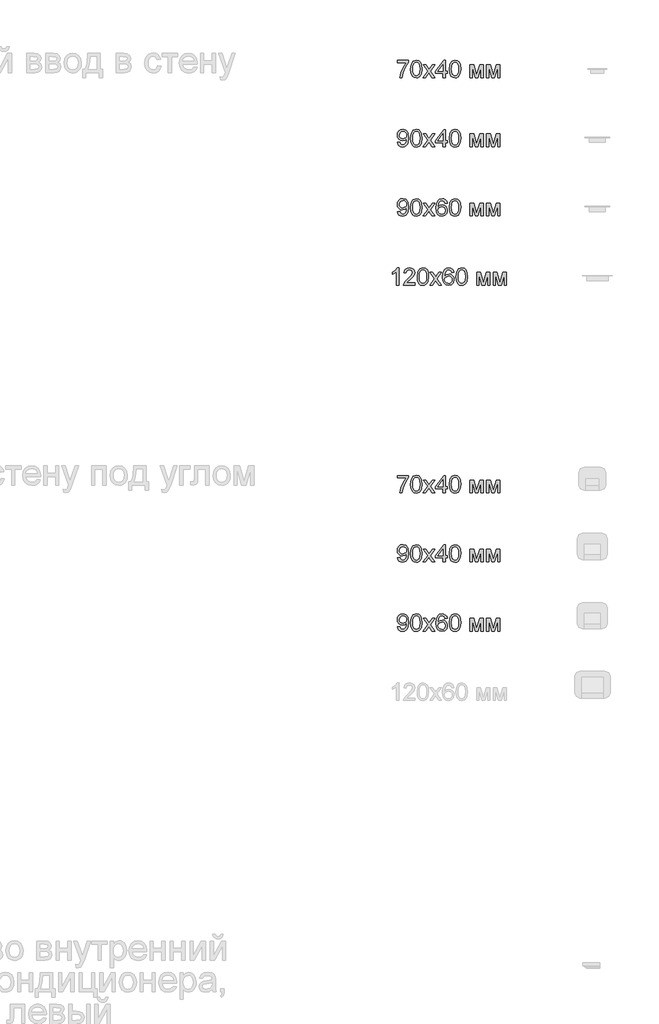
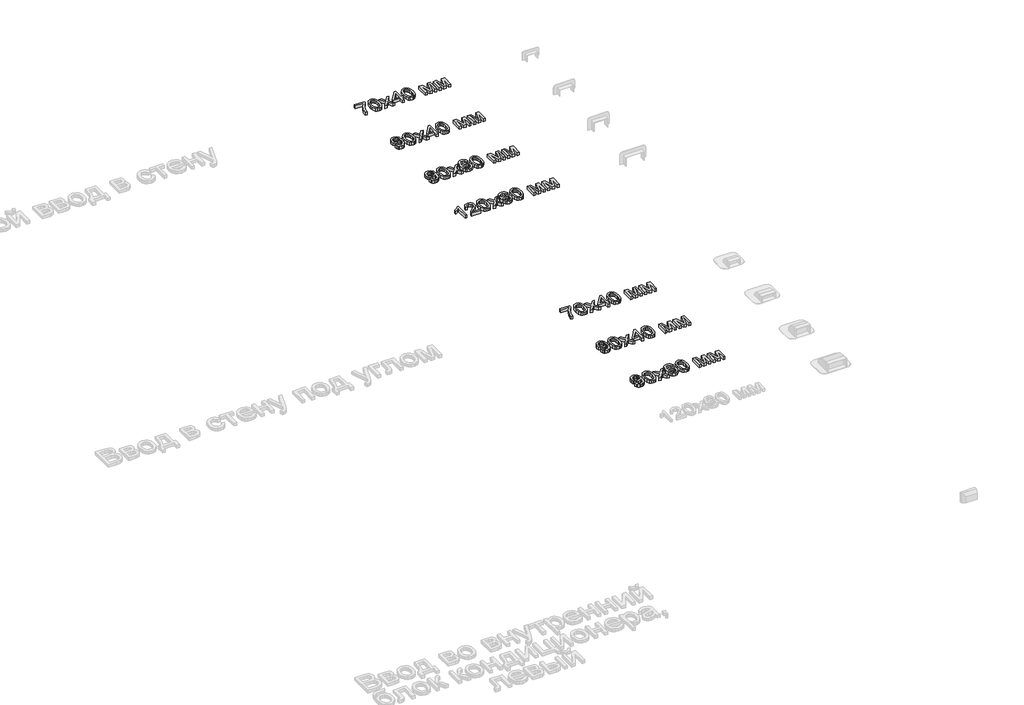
# One storey, part 21 of 21: 7 proxies.
"""IFC4 building model written with IfcOpenShell, lengths in millimetres."""

from ifc_helpers import new_model, si_unit, origin, origin_with_axes, place, context, project, spatial, polyline, outline, extrude, element, save

model = new_model("IFC4")

# Units and contexts
model_context = context("Model", 3, world=origin())
ifc_project = project(units=[si_unit("LENGTHUNIT", "METRE", prefix="MILLI")], contexts=[model_context])

# Site, building, storey
site = spatial("IfcSite", under=ifc_project)
building = spatial("IfcBuilding", under=site)
storey = spatial("IfcBuildingStorey", under=building, Name="Этаж 01", Elevation=0.0)

# Proxies
placement = place(None, origin())
element("IfcBuildingElementProxy", 1, Name="100 мм Arial", ObjectType="100 мм Arial", at=placement, inside=storey, context=model_context, shape_type="SweptSolid", body=[
    extrude(outline(polyline([(31827.6498938, -2496.6865886), (31827.6498938, -2484.1295498), (31893.5743473, -2484.1295498), (31893.5743473, -2494.2830929), (31874.8736792, -2521.297894), (31860.5630696, -2555.7193861), (31855.903231, -2583.0162301), (31843.3461922, -2583.0162301), (31848.3371246, -2554.6893165), (31862.0345976, -2522.6713202), (31881.0173085, -2496.6865886), (31827.6498938, -2496.6865886)])), origin_with_axes(), (0.0, 0.0, 1.0), 20.0),
    extrude(outline(polyline([(31904.5617562, -2533.5974154), (31908.2528389, -2504.6941533), (31919.2157224, -2488.0290989), (31937.523983, -2482.5599199), (31952.1902119, -2485.7972815), (31962.3192295, -2495.1292214), (31968.2053414, -2509.9916541), (31970.4862098, -2533.5974154), (31966.8319153, -2562.3780502), (31955.90582, -2579.0798927), (31947.6744604, -2583.2093681), (31937.523983, -2584.5858599), (31924.4764349, -2582.194627), (31914.5681465, -2575.0209281), (31907.0633538, -2558.0309113), (31904.5617562, -2533.5974154)]), holes=[polyline([(31917.118795, -2533.5728899), (31918.590323, -2553.3250874), (31923.0049069, -2564.7570204), (31929.5777319, -2570.210871), (31937.523983, -2572.0288212), (31945.4702341, -2570.2047396), (31952.0430591, -2564.7324949), (31956.457643, -2553.2944306), (31957.929171, -2533.5728899), (31956.5066939, -2514.2652166), (31952.2392628, -2502.7443787), (31945.6787005, -2497.0238137), (31937.3768302, -2495.1169587), (31929.5164182, -2496.7969532), (31923.2011106, -2501.8369365), (31918.6393739, -2514.0751442), (31917.118795, -2533.5728899)])]), origin_with_axes(), (0.0, 0.0, 1.0), 20.0),
    extrude(outline(polyline([(31976.7647291, -2583.0162301), (32003.5955893, -2545.933725), (31978.334359, -2509.2436273), (31993.4420463, -2509.2436273), (32005.631203, -2526.9019631), (32011.3211112, -2535.2406217), (32016.25073, -2528.422542), (32030.1321439, -2509.2436273), (32045.2398312, -2509.2436273), (32018.7032766, -2545.933725), (32044.2588125, -2583.0162301), (32029.1511253, -2583.0162301), (32013.7736579, -2560.7225812), (32010.9532292, -2556.6513538), (31991.8724164, -2583.0162301), (31976.7647291, -2583.0162301)])), origin_with_axes(), (0.0, 0.0, 1.0), 20.0),
    extrude(outline(polyline([(32092.9173377, -2583.0162301), (32092.9173377, -2559.4717824), (32047.3980722, -2559.4717824), (32047.3980722, -2546.9147436), (32096.0565974, -2484.1295498), (32105.4743765, -2484.1295498), (32105.4743765, -2546.9147436), (32118.0314153, -2546.9147436), (32118.0314153, -2559.4717824), (32105.4743765, -2559.4717824), (32105.4743765, -2583.0162301), (32092.9173377, -2583.0162301)]), holes=[polyline([(32092.9173377, -2546.9147436), (32092.9173377, -2508.1154559), (32062.849116, -2546.9147436), (32092.9173377, -2546.9147436)])]), origin_with_axes(), (0.0, 0.0, 1.0), 20.0),
    extrude(outline(polyline([(32129.0188242, -2533.5974154), (32132.7099069, -2504.6941533), (32143.6727904, -2488.0290989), (32161.981051, -2482.5599199), (32176.6472799, -2485.7972815), (32186.7762975, -2495.1292214), (32192.6624094, -2509.9916541), (32194.9432777, -2533.5974154), (32191.2889833, -2562.3780502), (32180.362888, -2579.0798927), (32172.1315284, -2583.2093681), (32161.981051, -2584.5858599), (32148.9335029, -2582.194627), (32139.0252145, -2575.0209281), (32131.5204218, -2558.0309113), (32129.0188242, -2533.5974154)]), holes=[polyline([(32141.575863, -2533.5728899), (32143.047391, -2553.3250874), (32147.4619749, -2564.7570204), (32154.0347999, -2570.210871), (32161.981051, -2572.0288212), (32169.9273021, -2570.2047396), (32176.5001271, -2564.7324949), (32180.914711, -2553.2944306), (32182.386239, -2533.5728899), (32180.9637619, -2514.2652166), (32176.6963308, -2502.7443787), (32170.1357685, -2497.0238137), (32161.8338982, -2495.1169587), (32153.9734862, -2496.7969532), (32147.6581786, -2501.8369365), (32143.0964419, -2514.0751442), (32141.575863, -2533.5728899)])]), origin_with_axes(), (0.0, 0.0, 1.0), 20.0),
    extrude(outline(polyline([(32248.3106925, -2509.2436273), (32269.9176284, -2509.2436273), (32286.57042, -2568.3009503), (32304.5230614, -2509.2436273), (32325.222555, -2509.2436273), (32325.222555, -2583.0162301), (32312.6655162, -2583.0162301), (32312.6655162, -2523.6155506), (32294.614773, -2583.0162301), (32278.1336596, -2583.0162301), (32260.8677313, -2520.7705965), (32260.8677313, -2583.0162301), (32248.3106925, -2583.0162301), (32248.3106925, -2509.2436273)])), origin_with_axes(), (0.0, 0.0, 1.0), 20.0),
    extrude(outline(polyline([(32344.0581131, -2509.2436273), (32365.665049, -2509.2436273), (32382.3178406, -2568.3009503), (32400.270482, -2509.2436273), (32420.9699756, -2509.2436273), (32420.9699756, -2583.0162301), (32408.4129368, -2583.0162301), (32408.4129368, -2523.6155506), (32390.3621936, -2583.0162301), (32373.8810802, -2583.0162301), (32356.6151519, -2520.7705965), (32356.6151519, -2583.0162301), (32344.0581131, -2583.0162301), (32344.0581131, -2509.2436273)])), origin_with_axes(), (0.0, 0.0, 1.0), 20.0),
])
element("IfcBuildingElementProxy", 2, Name="100 мм Arial", ObjectType="100 мм Arial", at=placement, inside=storey, context=model_context, shape_type="SweptSolid", body=[
    extrude(outline(polyline([(31829.2195236, -2957.9021526), (31841.7765624, -2956.3325227), (31847.4174196, -2968.313213), (31858.110523, -2972.0288212), (31868.2763288, -2969.6375882), (31875.1679848, -2963.2487042), (31879.2760004, -2952.3348717), (31881.0908849, -2937.7667447), (31881.0173085, -2935.3141981), (31870.9741301, -2944.830079), (31857.2030807, -2948.4843735), (31845.7527536, -2946.252556), (31836.2215442, -2939.5571037), (31829.7928064, -2929.2134883), (31827.6498938, -2916.0371815), (31829.8970396, -2902.4255477), (31836.6384772, -2891.7569698), (31846.7644291, -2884.8591824), (31859.165118, -2882.5599199), (31877.0564457, -2887.8083697), (31889.3682298, -2902.7689042), (31893.5743473, -2930.8750886), (31889.3804926, -2961.372506), (31884.1657653, -2971.3635679), (31876.9092929, -2978.6506971), (31867.9237752, -2983.1020692), (31857.5219118, -2984.5858599), (31846.7858889, -2982.8353548), (31838.2203698, -2977.5838393), (31832.2300246, -2969.1624073), (31829.2195236, -2957.9021526)]), holes=[polyline([(31881.0173085, -2915.7428759), (31879.6622765, -2907.2325391), (31875.5971805, -2900.6842396), (31869.2880042, -2896.5087789), (31861.2007317, -2895.1169587), (31852.8130222, -2896.6160778), (31846.0930445, -2901.1134352), (31841.6784605, -2907.9958942), (31840.2069325, -2916.6503182), (31841.5987527, -2924.4095626), (31845.7742134, -2930.5685203), (31852.3286443, -2934.5876311), (31860.8573752, -2935.9273347), (31875.3396631, -2930.5685203), (31879.5978972, -2924.182702), (31881.0173085, -2915.7428759)])]), origin_with_axes(), (0.0, 0.0, 1.0), 20.0),
    extrude(outline(polyline([(31904.5617562, -2933.5974154), (31908.2528389, -2904.6941533), (31919.2157224, -2888.0290989), (31937.523983, -2882.5599199), (31952.1902119, -2885.7972815), (31962.3192295, -2895.1292214), (31968.2053414, -2909.9916541), (31970.4862098, -2933.5974154), (31966.8319153, -2962.3780502), (31955.90582, -2979.0798927), (31947.6744604, -2983.2093681), (31937.523983, -2984.5858599), (31924.4764349, -2982.194627), (31914.5681465, -2975.0209281), (31907.0633538, -2958.0309113), (31904.5617562, -2933.5974154)]), holes=[polyline([(31917.118795, -2933.5728899), (31918.590323, -2953.3250874), (31923.0049069, -2964.7570204), (31929.5777319, -2970.210871), (31937.523983, -2972.0288212), (31945.4702341, -2970.2047396), (31952.0430591, -2964.7324949), (31956.457643, -2953.2944306), (31957.929171, -2933.5728899), (31956.5066939, -2914.2652166), (31952.2392628, -2902.7443787), (31945.6787005, -2897.0238137), (31937.3768302, -2895.1169587), (31929.5164182, -2896.7969532), (31923.2011106, -2901.8369365), (31918.6393739, -2914.0751442), (31917.118795, -2933.5728899)])]), origin_with_axes(), (0.0, 0.0, 1.0), 20.0),
    extrude(outline(polyline([(31976.7647291, -2983.0162301), (32003.5955893, -2945.933725), (31978.334359, -2909.2436273), (31993.4420463, -2909.2436273), (32005.631203, -2926.9019631), (32011.3211112, -2935.2406217), (32016.25073, -2928.422542), (32030.1321439, -2909.2436273), (32045.2398312, -2909.2436273), (32018.7032766, -2945.933725), (32044.2588125, -2983.0162301), (32029.1511253, -2983.0162301), (32013.7736579, -2960.7225812), (32010.9532292, -2956.6513538), (31991.8724164, -2983.0162301), (31976.7647291, -2983.0162301)])), origin_with_axes(), (0.0, 0.0, 1.0), 20.0),
    extrude(outline(polyline([(32092.9173377, -2983.0162301), (32092.9173377, -2959.4717824), (32047.3980722, -2959.4717824), (32047.3980722, -2946.9147436), (32096.0565974, -2884.1295498), (32105.4743765, -2884.1295498), (32105.4743765, -2946.9147436), (32118.0314153, -2946.9147436), (32118.0314153, -2959.4717824), (32105.4743765, -2959.4717824), (32105.4743765, -2983.0162301), (32092.9173377, -2983.0162301)]), holes=[polyline([(32092.9173377, -2946.9147436), (32092.9173377, -2908.1154559), (32062.849116, -2946.9147436), (32092.9173377, -2946.9147436)])]), origin_with_axes(), (0.0, 0.0, 1.0), 20.0),
    extrude(outline(polyline([(32129.0188242, -2933.5974154), (32132.7099069, -2904.6941533), (32143.6727904, -2888.0290989), (32161.981051, -2882.5599199), (32176.6472799, -2885.7972815), (32186.7762975, -2895.1292214), (32192.6624094, -2909.9916541), (32194.9432777, -2933.5974154), (32191.2889833, -2962.3780502), (32180.362888, -2979.0798927), (32172.1315284, -2983.2093681), (32161.981051, -2984.5858599), (32148.9335029, -2982.194627), (32139.0252145, -2975.0209281), (32131.5204218, -2958.0309113), (32129.0188242, -2933.5974154)]), holes=[polyline([(32141.575863, -2933.5728899), (32143.047391, -2953.3250874), (32147.4619749, -2964.7570204), (32154.0347999, -2970.210871), (32161.981051, -2972.0288212), (32169.9273021, -2970.2047396), (32176.5001271, -2964.7324949), (32180.914711, -2953.2944306), (32182.386239, -2933.5728899), (32180.9637619, -2914.2652166), (32176.6963308, -2902.7443787), (32170.1357685, -2897.0238137), (32161.8338982, -2895.1169587), (32153.9734862, -2896.7969532), (32147.6581786, -2901.8369365), (32143.0964419, -2914.0751442), (32141.575863, -2933.5728899)])]), origin_with_axes(), (0.0, 0.0, 1.0), 20.0),
    extrude(outline(polyline([(32248.3106925, -2909.2436273), (32269.9176284, -2909.2436273), (32286.57042, -2968.3009503), (32304.5230614, -2909.2436273), (32325.222555, -2909.2436273), (32325.222555, -2983.0162301), (32312.6655162, -2983.0162301), (32312.6655162, -2923.6155506), (32294.614773, -2983.0162301), (32278.1336596, -2983.0162301), (32260.8677313, -2920.7705965), (32260.8677313, -2983.0162301), (32248.3106925, -2983.0162301), (32248.3106925, -2909.2436273)])), origin_with_axes(), (0.0, 0.0, 1.0), 20.0),
    extrude(outline(polyline([(32344.0581131, -2909.2436273), (32365.665049, -2909.2436273), (32382.3178406, -2968.3009503), (32400.270482, -2909.2436273), (32420.9699756, -2909.2436273), (32420.9699756, -2983.0162301), (32408.4129368, -2983.0162301), (32408.4129368, -2923.6155506), (32390.3621936, -2983.0162301), (32373.8810802, -2983.0162301), (32356.6151519, -2920.7705965), (32356.6151519, -2983.0162301), (32344.0581131, -2983.0162301), (32344.0581131, -2909.2436273)])), origin_with_axes(), (0.0, 0.0, 1.0), 20.0),
])
element("IfcBuildingElementProxy", 3, Name="100 мм Arial", ObjectType="100 мм Arial", at=placement, inside=storey, context=model_context, shape_type="SweptSolid", body=[
    extrude(outline(polyline([(31829.2195236, -3357.9021526), (31841.7765624, -3356.3325227), (31847.4174196, -3368.313213), (31858.110523, -3372.0288212), (31868.2763288, -3369.6375882), (31875.1679848, -3363.2487042), (31879.2760004, -3352.3348717), (31881.0908849, -3337.7667447), (31881.0173085, -3335.3141981), (31870.9741301, -3344.830079), (31857.2030807, -3348.4843735), (31845.7527536, -3346.252556), (31836.2215442, -3339.5571037), (31829.7928064, -3329.2134883), (31827.6498938, -3316.0371815), (31829.8970396, -3302.4255477), (31836.6384772, -3291.7569698), (31846.7644291, -3284.8591824), (31859.165118, -3282.5599199), (31877.0564457, -3287.8083697), (31889.3682298, -3302.7689042), (31893.5743473, -3330.8750886), (31889.3804926, -3361.372506), (31884.1657653, -3371.3635679), (31876.9092929, -3378.6506971), (31867.9237752, -3383.1020692), (31857.5219118, -3384.5858599), (31846.7858889, -3382.8353548), (31838.2203698, -3377.5838393), (31832.2300246, -3369.1624073), (31829.2195236, -3357.9021526)]), holes=[polyline([(31881.0173085, -3315.7428759), (31879.6622765, -3307.2325391), (31875.5971805, -3300.6842396), (31869.2880042, -3296.5087789), (31861.2007317, -3295.1169587), (31852.8130222, -3296.6160778), (31846.0930445, -3301.1134352), (31841.6784605, -3307.9958942), (31840.2069325, -3316.6503182), (31841.5987527, -3324.4095626), (31845.7742134, -3330.5685203), (31852.3286443, -3334.5876311), (31860.8573752, -3335.9273347), (31875.3396631, -3330.5685203), (31879.5978972, -3324.182702), (31881.0173085, -3315.7428759)])]), origin_with_axes(), (0.0, 0.0, 1.0), 20.0),
    extrude(outline(polyline([(31904.5617562, -3333.5974154), (31908.2528389, -3304.6941533), (31919.2157224, -3288.0290989), (31937.523983, -3282.5599199), (31952.1902119, -3285.7972815), (31962.3192295, -3295.1292214), (31968.2053414, -3309.9916541), (31970.4862098, -3333.5974154), (31966.8319153, -3362.3780502), (31955.90582, -3379.0798927), (31947.6744604, -3383.2093681), (31937.523983, -3384.5858599), (31924.4764349, -3382.194627), (31914.5681465, -3375.0209281), (31907.0633538, -3358.0309113), (31904.5617562, -3333.5974154)]), holes=[polyline([(31917.118795, -3333.5728899), (31918.590323, -3353.3250874), (31923.0049069, -3364.7570204), (31929.5777319, -3370.210871), (31937.523983, -3372.0288212), (31945.4702341, -3370.2047396), (31952.0430591, -3364.7324949), (31956.457643, -3353.2944306), (31957.929171, -3333.5728899), (31956.5066939, -3314.2652166), (31952.2392628, -3302.7443787), (31945.6787005, -3297.0238137), (31937.3768302, -3295.1169587), (31929.5164182, -3296.7969532), (31923.2011106, -3301.8369365), (31918.6393739, -3314.0751442), (31917.118795, -3333.5728899)])]), origin_with_axes(), (0.0, 0.0, 1.0), 20.0),
    extrude(outline(polyline([(31976.7647291, -3383.0162301), (32003.5955893, -3345.933725), (31978.334359, -3309.2436273), (31993.4420463, -3309.2436273), (32005.631203, -3326.9019631), (32011.3211112, -3335.2406217), (32016.25073, -3328.422542), (32030.1321439, -3309.2436273), (32045.2398312, -3309.2436273), (32018.7032766, -3345.933725), (32044.2588125, -3383.0162301), (32029.1511253, -3383.0162301), (32013.7736579, -3360.7225812), (32010.9532292, -3356.6513538), (31991.8724164, -3383.0162301), (31976.7647291, -3383.0162301)])), origin_with_axes(), (0.0, 0.0, 1.0), 20.0),
    extrude(outline(polyline([(32116.4617854, -3309.2436273), (32103.9047467, -3310.8132572), (32099.1468062, -3300.340883), (32086.565242, -3295.1169587), (32075.2344765, -3298.1581165), (32066.662826, -3309.5747211), (32063.0943707, -3331.9542092), (32074.1676187, -3321.9355562), (32087.8896171, -3318.6614064), (32099.4901627, -3320.8993552), (32109.2267729, -3327.6132016), (32115.8302547, -3337.8709779), (32118.0314153, -3350.7407164), (32113.8866115, -3368.0679584), (32102.4822696, -3380.3306915), (32086.0256817, -3384.5858599), (32071.7794514, -3381.7654313), (32060.4333576, -3373.3041454), (32053.0113383, -3358.3681364), (32050.5373319, -3336.1235384), (32053.2841841, -3311.1136941), (32061.5247408, -3294.0133127), (32072.7757985, -3285.4232681), (32087.3500569, -3282.5599199), (32098.3681226, -3284.3318849), (32107.1911592, -3289.6477797), (32113.3715767, -3298.0906715), (32116.4617854, -3309.2436273)]), holes=[polyline([(32063.0943707, -3350.5445127), (32066.0006384, -3361.421557), (32073.7261603, -3369.3187571), (32085.0446631, -3372.0288212), (32093.331205, -3370.6247382), (32099.845782, -3366.4124894), (32104.0672279, -3359.7906135), (32105.4743765, -3351.1576493), (32104.085622, -3342.8711074), (32099.9193584, -3336.5527341), (32093.2944168, -3332.5520174), (32084.5296283, -3331.2184452), (32069.3361019, -3336.5527341), (32064.6548035, -3342.7178232), (32063.0943707, -3350.5445127)])]), origin_with_axes(), (0.0, 0.0, 1.0), 20.0),
    extrude(outline(polyline([(32129.0188242, -3333.5974154), (32132.7099069, -3304.6941533), (32143.6727904, -3288.0290989), (32161.981051, -3282.5599199), (32176.6472799, -3285.7972815), (32186.7762975, -3295.1292214), (32192.6624094, -3309.9916541), (32194.9432777, -3333.5974154), (32191.2889833, -3362.3780502), (32180.362888, -3379.0798927), (32172.1315284, -3383.2093681), (32161.981051, -3384.5858599), (32148.9335029, -3382.194627), (32139.0252145, -3375.0209281), (32131.5204218, -3358.0309113), (32129.0188242, -3333.5974154)]), holes=[polyline([(32141.575863, -3333.5728899), (32143.047391, -3353.3250874), (32147.4619749, -3364.7570204), (32154.0347999, -3370.210871), (32161.981051, -3372.0288212), (32169.9273021, -3370.2047396), (32176.5001271, -3364.7324949), (32180.914711, -3353.2944306), (32182.386239, -3333.5728899), (32180.9637619, -3314.2652166), (32176.6963308, -3302.7443787), (32170.1357685, -3297.0238137), (32161.8338982, -3295.1169587), (32153.9734862, -3296.7969532), (32147.6581786, -3301.8369365), (32143.0964419, -3314.0751442), (32141.575863, -3333.5728899)])]), origin_with_axes(), (0.0, 0.0, 1.0), 20.0),
    extrude(outline(polyline([(32248.3106925, -3309.2436273), (32269.9176284, -3309.2436273), (32286.57042, -3368.3009503), (32304.5230614, -3309.2436273), (32325.222555, -3309.2436273), (32325.222555, -3383.0162301), (32312.6655162, -3383.0162301), (32312.6655162, -3323.6155506), (32294.614773, -3383.0162301), (32278.1336596, -3383.0162301), (32260.8677313, -3320.7705965), (32260.8677313, -3383.0162301), (32248.3106925, -3383.0162301), (32248.3106925, -3309.2436273)])), origin_with_axes(), (0.0, 0.0, 1.0), 20.0),
    extrude(outline(polyline([(32344.0581131, -3309.2436273), (32365.665049, -3309.2436273), (32382.3178406, -3368.3009503), (32400.270482, -3309.2436273), (32420.9699756, -3309.2436273), (32420.9699756, -3383.0162301), (32408.4129368, -3383.0162301), (32408.4129368, -3323.6155506), (32390.3621936, -3383.0162301), (32373.8810802, -3383.0162301), (32356.6151519, -3320.7705965), (32356.6151519, -3383.0162301), (32344.0581131, -3383.0162301), (32344.0581131, -3309.2436273)])), origin_with_axes(), (0.0, 0.0, 1.0), 20.0),
])
element("IfcBuildingElementProxy", 4, Name="100 мм Arial", ObjectType="100 мм Arial", at=placement, inside=storey, context=model_context, shape_type="SweptSolid", body=[
    extrude(outline(polyline([(31836.2828579, -3783.0162301), (31823.7258191, -3783.0162301), (31823.7258191, -3704.7309415), (31811.830968, -3713.2044901), (31798.6117416, -3719.5443232), (31798.6117416, -3707.6739975), (31817.0181041, -3695.9262991), (31828.189454, -3682.5599199), (31836.2828579, -3682.5599199), (31836.2828579, -3783.0162301)])), origin_with_axes(), (0.0, 0.0, 1.0), 20.0),
    extrude(outline(polyline([(31930.4606487, -3770.4591913), (31930.4606487, -3783.0162301), (31864.5361951, -3783.0162301), (31865.8850958, -3774.3587405), (31873.5125158, -3761.0291495), (31889.2333398, -3746.4732852), (31910.913852, -3725.5530625), (31916.3339801, -3711.328292), (31911.2204203, -3699.8135855), (31897.8663039, -3695.1169587), (31883.9481018, -3699.7032209), (31878.6628638, -3712.382887), (31866.105825, -3710.8132572), (31869.1500485, -3698.66702), (31875.7320705, -3689.7949325), (31885.5085346, -3684.3686731), (31898.136084, -3682.5599199), (31910.855604, -3684.5710082), (31920.6136739, -3690.6042729), (31926.8216826, -3699.6173818), (31928.8910188, -3710.5680025), (31926.6592014, -3722.4751164), (31919.2402478, -3734.7869005), (31901.2508183, -3751.9915152), (31886.8053186, -3764.0703073), (31881.1399359, -3770.4591913), (31930.4606487, -3770.4591913)])), origin_with_axes(), (0.0, 0.0, 1.0), 20.0),
    extrude(outline(polyline([(31943.0176874, -3733.5974154), (31946.7087701, -3704.6941533), (31957.6716536, -3688.0290989), (31975.9799142, -3682.5599199), (31990.6461431, -3685.7972815), (32000.7751607, -3695.1292214), (32006.6612726, -3709.9916541), (32008.942141, -3733.5974154), (32005.2878465, -3762.3780502), (31994.3617512, -3779.0798927), (31986.1303916, -3783.2093681), (31975.9799142, -3784.5858599), (31962.9323661, -3782.194627), (31953.0240777, -3775.0209281), (31945.519285, -3758.0309113), (31943.0176874, -3733.5974154)]), holes=[polyline([(31955.5747262, -3733.5728899), (31957.0462542, -3753.3250874), (31961.4608381, -3764.7570204), (31968.0336631, -3770.210871), (31975.9799142, -3772.0288212), (31983.9261653, -3770.2047396), (31990.4989903, -3764.7324949), (31994.9135742, -3753.2944306), (31996.3851022, -3733.5728899), (31994.9626252, -3714.2652166), (31990.695194, -3702.7443787), (31984.1346318, -3697.0238137), (31975.8327614, -3695.1169587), (31967.9723495, -3696.7969532), (31961.6570419, -3701.8369365), (31957.0953051, -3714.0751442), (31955.5747262, -3733.5728899)])]), origin_with_axes(), (0.0, 0.0, 1.0), 20.0),
    extrude(outline(polyline([(32015.2206604, -3783.0162301), (32042.0515206, -3745.933725), (32016.7902902, -3709.2436273), (32031.8979775, -3709.2436273), (32044.0871343, -3726.9019631), (32049.7770424, -3735.2406217), (32054.7066612, -3728.422542), (32068.5880751, -3709.2436273), (32083.6957624, -3709.2436273), (32057.1592078, -3745.933725), (32082.7147438, -3783.0162301), (32067.6070565, -3783.0162301), (32052.2295891, -3760.7225812), (32049.4091605, -3756.6513538), (32030.3283476, -3783.0162301), (32015.2206604, -3783.0162301)])), origin_with_axes(), (0.0, 0.0, 1.0), 20.0),
    extrude(outline(polyline([(32154.9177167, -3709.2436273), (32142.3606779, -3710.8132572), (32137.6027374, -3700.340883), (32125.0211732, -3695.1169587), (32113.6904077, -3698.1581165), (32105.1187573, -3709.5747211), (32101.5503019, -3731.9542092), (32112.62355, -3721.9355562), (32126.3455484, -3718.6614064), (32137.946094, -3720.8993552), (32147.6827041, -3727.6132016), (32154.2861859, -3737.8709779), (32156.4873465, -3750.7407164), (32152.3425427, -3768.0679584), (32140.9382009, -3780.3306915), (32124.4816129, -3784.5858599), (32110.2353827, -3781.7654313), (32098.8892888, -3773.3041454), (32091.4672696, -3758.3681364), (32088.9932631, -3736.1235384), (32091.7401154, -3711.1136941), (32099.9806721, -3694.0133127), (32111.2317297, -3685.4232681), (32125.8059881, -3682.5599199), (32136.8240539, -3684.3318849), (32145.6470904, -3689.6477797), (32151.8275079, -3698.0906715), (32154.9177167, -3709.2436273)]), holes=[polyline([(32101.5503019, -3750.5445127), (32104.4565697, -3761.421557), (32112.1820916, -3769.3187571), (32123.5005943, -3772.0288212), (32131.7871362, -3770.6247382), (32138.3017132, -3766.4124894), (32142.5231591, -3759.7906135), (32143.9303077, -3751.1576493), (32142.5415532, -3742.8711074), (32138.3752896, -3736.5527341), (32131.750348, -3732.5520174), (32122.9855595, -3731.2184452), (32107.7920331, -3736.5527341), (32103.1107347, -3742.7178232), (32101.5503019, -3750.5445127)])]), origin_with_axes(), (0.0, 0.0, 1.0), 20.0),
    extrude(outline(polyline([(32167.4747554, -3733.5974154), (32171.1658381, -3704.6941533), (32182.1287216, -3688.0290989), (32200.4369822, -3682.5599199), (32215.1032111, -3685.7972815), (32225.2322287, -3695.1292214), (32231.1183406, -3709.9916541), (32233.399209, -3733.5974154), (32229.7449145, -3762.3780502), (32218.8188192, -3779.0798927), (32210.5874596, -3783.2093681), (32200.4369822, -3784.5858599), (32187.3894341, -3782.194627), (32177.4811457, -3775.0209281), (32169.976353, -3758.0309113), (32167.4747554, -3733.5974154)]), holes=[polyline([(32180.0317942, -3733.5728899), (32181.5033222, -3753.3250874), (32185.9179061, -3764.7570204), (32192.4907311, -3770.210871), (32200.4369822, -3772.0288212), (32208.3832333, -3770.2047396), (32214.9560583, -3764.7324949), (32219.3706422, -3753.2944306), (32220.8421702, -3733.5728899), (32219.4196932, -3714.2652166), (32215.152262, -3702.7443787), (32208.5916998, -3697.0238137), (32200.2898294, -3695.1169587), (32192.4294174, -3696.7969532), (32186.1141099, -3701.8369365), (32181.5523731, -3714.0751442), (32180.0317942, -3733.5728899)])]), origin_with_axes(), (0.0, 0.0, 1.0), 20.0),
    extrude(outline(polyline([(32286.7666237, -3709.2436273), (32308.3735596, -3709.2436273), (32325.0263512, -3768.3009503), (32342.9789926, -3709.2436273), (32363.6784862, -3709.2436273), (32363.6784862, -3783.0162301), (32351.1214474, -3783.0162301), (32351.1214474, -3723.6155506), (32333.0707042, -3783.0162301), (32316.5895908, -3783.0162301), (32299.3236625, -3720.7705965), (32299.3236625, -3783.0162301), (32286.7666237, -3783.0162301), (32286.7666237, -3709.2436273)])), origin_with_axes(), (0.0, 0.0, 1.0), 20.0),
    extrude(outline(polyline([(32382.5140444, -3709.2436273), (32404.1209802, -3709.2436273), (32420.7737719, -3768.3009503), (32438.7264132, -3709.2436273), (32459.4259068, -3709.2436273), (32459.4259068, -3783.0162301), (32446.868868, -3783.0162301), (32446.868868, -3723.6155506), (32428.8181248, -3783.0162301), (32412.3370114, -3783.0162301), (32395.0710831, -3720.7705965), (32395.0710831, -3783.0162301), (32382.5140444, -3783.0162301), (32382.5140444, -3709.2436273)])), origin_with_axes(), (0.0, 0.0, 1.0), 20.0),
])
element("IfcBuildingElementProxy", 5, Name="100 мм Arial", ObjectType="100 мм Arial", at=placement, inside=storey, context=model_context, shape_type="SweptSolid", body=[
    extrude(outline(polyline([(31827.6498938, -4896.6865886), (31827.6498938, -4884.1295498), (31893.5743473, -4884.1295498), (31893.5743473, -4894.2830929), (31874.8736792, -4921.297894), (31860.5630696, -4955.7193861), (31855.903231, -4983.0162301), (31843.3461922, -4983.0162301), (31848.3371246, -4954.6893165), (31862.0345976, -4922.6713202), (31881.0173085, -4896.6865886), (31827.6498938, -4896.6865886)])), origin_with_axes(), (0.0, 0.0, 1.0), 20.0),
    extrude(outline(polyline([(31904.5617562, -4933.5974154), (31908.2528389, -4904.6941533), (31919.2157224, -4888.0290989), (31937.523983, -4882.5599199), (31952.1902119, -4885.7972815), (31962.3192295, -4895.1292214), (31968.2053414, -4909.9916541), (31970.4862098, -4933.5974154), (31966.8319153, -4962.3780502), (31955.90582, -4979.0798927), (31947.6744604, -4983.2093681), (31937.523983, -4984.5858599), (31924.4764349, -4982.194627), (31914.5681465, -4975.0209281), (31907.0633538, -4958.0309113), (31904.5617562, -4933.5974154)]), holes=[polyline([(31917.118795, -4933.5728899), (31918.590323, -4953.3250874), (31923.0049069, -4964.7570204), (31929.5777319, -4970.210871), (31937.523983, -4972.0288212), (31945.4702341, -4970.2047396), (31952.0430591, -4964.7324949), (31956.457643, -4953.2944306), (31957.929171, -4933.5728899), (31956.5066939, -4914.2652166), (31952.2392628, -4902.7443787), (31945.6787005, -4897.0238137), (31937.3768302, -4895.1169587), (31929.5164182, -4896.7969532), (31923.2011106, -4901.8369365), (31918.6393739, -4914.0751442), (31917.118795, -4933.5728899)])]), origin_with_axes(), (0.0, 0.0, 1.0), 20.0),
    extrude(outline(polyline([(31976.7647291, -4983.0162301), (32003.5955893, -4945.933725), (31978.334359, -4909.2436273), (31993.4420463, -4909.2436273), (32005.631203, -4926.9019631), (32011.3211112, -4935.2406217), (32016.25073, -4928.422542), (32030.1321439, -4909.2436273), (32045.2398312, -4909.2436273), (32018.7032766, -4945.933725), (32044.2588125, -4983.0162301), (32029.1511253, -4983.0162301), (32013.7736579, -4960.7225812), (32010.9532292, -4956.6513538), (31991.8724164, -4983.0162301), (31976.7647291, -4983.0162301)])), origin_with_axes(), (0.0, 0.0, 1.0), 20.0),
    extrude(outline(polyline([(32092.9173377, -4983.0162301), (32092.9173377, -4959.4717824), (32047.3980722, -4959.4717824), (32047.3980722, -4946.9147436), (32096.0565974, -4884.1295498), (32105.4743765, -4884.1295498), (32105.4743765, -4946.9147436), (32118.0314153, -4946.9147436), (32118.0314153, -4959.4717824), (32105.4743765, -4959.4717824), (32105.4743765, -4983.0162301), (32092.9173377, -4983.0162301)]), holes=[polyline([(32092.9173377, -4946.9147436), (32092.9173377, -4908.1154559), (32062.849116, -4946.9147436), (32092.9173377, -4946.9147436)])]), origin_with_axes(), (0.0, 0.0, 1.0), 20.0),
    extrude(outline(polyline([(32129.0188242, -4933.5974154), (32132.7099069, -4904.6941533), (32143.6727904, -4888.0290989), (32161.981051, -4882.5599199), (32176.6472799, -4885.7972815), (32186.7762975, -4895.1292214), (32192.6624094, -4909.9916541), (32194.9432777, -4933.5974154), (32191.2889833, -4962.3780502), (32180.362888, -4979.0798927), (32172.1315284, -4983.2093681), (32161.981051, -4984.5858599), (32148.9335029, -4982.194627), (32139.0252145, -4975.0209281), (32131.5204218, -4958.0309113), (32129.0188242, -4933.5974154)]), holes=[polyline([(32141.575863, -4933.5728899), (32143.047391, -4953.3250874), (32147.4619749, -4964.7570204), (32154.0347999, -4970.210871), (32161.981051, -4972.0288212), (32169.9273021, -4970.2047396), (32176.5001271, -4964.7324949), (32180.914711, -4953.2944306), (32182.386239, -4933.5728899), (32180.9637619, -4914.2652166), (32176.6963308, -4902.7443787), (32170.1357685, -4897.0238137), (32161.8338982, -4895.1169587), (32153.9734862, -4896.7969532), (32147.6581786, -4901.8369365), (32143.0964419, -4914.0751442), (32141.575863, -4933.5728899)])]), origin_with_axes(), (0.0, 0.0, 1.0), 20.0),
    extrude(outline(polyline([(32248.3106925, -4909.2436273), (32269.9176284, -4909.2436273), (32286.57042, -4968.3009503), (32304.5230614, -4909.2436273), (32325.222555, -4909.2436273), (32325.222555, -4983.0162301), (32312.6655162, -4983.0162301), (32312.6655162, -4923.6155506), (32294.614773, -4983.0162301), (32278.1336596, -4983.0162301), (32260.8677313, -4920.7705965), (32260.8677313, -4983.0162301), (32248.3106925, -4983.0162301), (32248.3106925, -4909.2436273)])), origin_with_axes(), (0.0, 0.0, 1.0), 20.0),
    extrude(outline(polyline([(32344.0581131, -4909.2436273), (32365.665049, -4909.2436273), (32382.3178406, -4968.3009503), (32400.270482, -4909.2436273), (32420.9699756, -4909.2436273), (32420.9699756, -4983.0162301), (32408.4129368, -4983.0162301), (32408.4129368, -4923.6155506), (32390.3621936, -4983.0162301), (32373.8810802, -4983.0162301), (32356.6151519, -4920.7705965), (32356.6151519, -4983.0162301), (32344.0581131, -4983.0162301), (32344.0581131, -4909.2436273)])), origin_with_axes(), (0.0, 0.0, 1.0), 20.0),
])
element("IfcBuildingElementProxy", 6, Name="100 мм Arial", ObjectType="100 мм Arial", at=placement, inside=storey, context=model_context, shape_type="SweptSolid", body=[
    extrude(outline(polyline([(31829.2195236, -5357.9021526), (31841.7765624, -5356.3325227), (31847.4174196, -5368.313213), (31858.110523, -5372.0288212), (31868.2763288, -5369.6375882), (31875.1679848, -5363.2487042), (31879.2760004, -5352.3348717), (31881.0908849, -5337.7667447), (31881.0173085, -5335.3141981), (31870.9741301, -5344.830079), (31857.2030807, -5348.4843735), (31845.7527536, -5346.252556), (31836.2215442, -5339.5571037), (31829.7928064, -5329.2134883), (31827.6498938, -5316.0371815), (31829.8970396, -5302.4255477), (31836.6384772, -5291.7569698), (31846.7644291, -5284.8591824), (31859.165118, -5282.5599199), (31877.0564457, -5287.8083697), (31889.3682298, -5302.7689042), (31893.5743473, -5330.8750886), (31889.3804926, -5361.372506), (31884.1657653, -5371.3635679), (31876.9092929, -5378.6506971), (31867.9237752, -5383.1020692), (31857.5219118, -5384.5858599), (31846.7858889, -5382.8353548), (31838.2203698, -5377.5838393), (31832.2300246, -5369.1624073), (31829.2195236, -5357.9021526)]), holes=[polyline([(31881.0173085, -5315.7428759), (31879.6622765, -5307.2325391), (31875.5971805, -5300.6842396), (31869.2880042, -5296.5087789), (31861.2007317, -5295.1169587), (31852.8130222, -5296.6160778), (31846.0930445, -5301.1134352), (31841.6784605, -5307.9958942), (31840.2069325, -5316.6503182), (31841.5987527, -5324.4095626), (31845.7742134, -5330.5685203), (31852.3286443, -5334.5876311), (31860.8573752, -5335.9273347), (31875.3396631, -5330.5685203), (31879.5978972, -5324.182702), (31881.0173085, -5315.7428759)])]), origin_with_axes(), (0.0, 0.0, 1.0), 20.0),
    extrude(outline(polyline([(31904.5617562, -5333.5974154), (31908.2528389, -5304.6941533), (31919.2157224, -5288.0290989), (31937.523983, -5282.5599199), (31952.1902119, -5285.7972815), (31962.3192295, -5295.1292214), (31968.2053414, -5309.9916541), (31970.4862098, -5333.5974154), (31966.8319153, -5362.3780502), (31955.90582, -5379.0798927), (31947.6744604, -5383.2093681), (31937.523983, -5384.5858599), (31924.4764349, -5382.194627), (31914.5681465, -5375.0209281), (31907.0633538, -5358.0309113), (31904.5617562, -5333.5974154)]), holes=[polyline([(31917.118795, -5333.5728899), (31918.590323, -5353.3250874), (31923.0049069, -5364.7570204), (31929.5777319, -5370.210871), (31937.523983, -5372.0288212), (31945.4702341, -5370.2047396), (31952.0430591, -5364.7324949), (31956.457643, -5353.2944306), (31957.929171, -5333.5728899), (31956.5066939, -5314.2652166), (31952.2392628, -5302.7443787), (31945.6787005, -5297.0238137), (31937.3768302, -5295.1169587), (31929.5164182, -5296.7969532), (31923.2011106, -5301.8369365), (31918.6393739, -5314.0751442), (31917.118795, -5333.5728899)])]), origin_with_axes(), (0.0, 0.0, 1.0), 20.0),
    extrude(outline(polyline([(31976.7647291, -5383.0162301), (32003.5955893, -5345.933725), (31978.334359, -5309.2436273), (31993.4420463, -5309.2436273), (32005.631203, -5326.9019631), (32011.3211112, -5335.2406217), (32016.25073, -5328.422542), (32030.1321439, -5309.2436273), (32045.2398312, -5309.2436273), (32018.7032766, -5345.933725), (32044.2588125, -5383.0162301), (32029.1511253, -5383.0162301), (32013.7736579, -5360.7225812), (32010.9532292, -5356.6513538), (31991.8724164, -5383.0162301), (31976.7647291, -5383.0162301)])), origin_with_axes(), (0.0, 0.0, 1.0), 20.0),
    extrude(outline(polyline([(32092.9173377, -5383.0162301), (32092.9173377, -5359.4717824), (32047.3980722, -5359.4717824), (32047.3980722, -5346.9147436), (32096.0565974, -5284.1295498), (32105.4743765, -5284.1295498), (32105.4743765, -5346.9147436), (32118.0314153, -5346.9147436), (32118.0314153, -5359.4717824), (32105.4743765, -5359.4717824), (32105.4743765, -5383.0162301), (32092.9173377, -5383.0162301)]), holes=[polyline([(32092.9173377, -5346.9147436), (32092.9173377, -5308.1154559), (32062.849116, -5346.9147436), (32092.9173377, -5346.9147436)])]), origin_with_axes(), (0.0, 0.0, 1.0), 20.0),
    extrude(outline(polyline([(32129.0188242, -5333.5974154), (32132.7099069, -5304.6941533), (32143.6727904, -5288.0290989), (32161.981051, -5282.5599199), (32176.6472799, -5285.7972815), (32186.7762975, -5295.1292214), (32192.6624094, -5309.9916541), (32194.9432777, -5333.5974154), (32191.2889833, -5362.3780502), (32180.362888, -5379.0798927), (32172.1315284, -5383.2093681), (32161.981051, -5384.5858599), (32148.9335029, -5382.194627), (32139.0252145, -5375.0209281), (32131.5204218, -5358.0309113), (32129.0188242, -5333.5974154)]), holes=[polyline([(32141.575863, -5333.5728899), (32143.047391, -5353.3250874), (32147.4619749, -5364.7570204), (32154.0347999, -5370.210871), (32161.981051, -5372.0288212), (32169.9273021, -5370.2047396), (32176.5001271, -5364.7324949), (32180.914711, -5353.2944306), (32182.386239, -5333.5728899), (32180.9637619, -5314.2652166), (32176.6963308, -5302.7443787), (32170.1357685, -5297.0238137), (32161.8338982, -5295.1169587), (32153.9734862, -5296.7969532), (32147.6581786, -5301.8369365), (32143.0964419, -5314.0751442), (32141.575863, -5333.5728899)])]), origin_with_axes(), (0.0, 0.0, 1.0), 20.0),
    extrude(outline(polyline([(32248.3106925, -5309.2436273), (32269.9176284, -5309.2436273), (32286.57042, -5368.3009503), (32304.5230614, -5309.2436273), (32325.222555, -5309.2436273), (32325.222555, -5383.0162301), (32312.6655162, -5383.0162301), (32312.6655162, -5323.6155506), (32294.614773, -5383.0162301), (32278.1336596, -5383.0162301), (32260.8677313, -5320.7705965), (32260.8677313, -5383.0162301), (32248.3106925, -5383.0162301), (32248.3106925, -5309.2436273)])), origin_with_axes(), (0.0, 0.0, 1.0), 20.0),
    extrude(outline(polyline([(32344.0581131, -5309.2436273), (32365.665049, -5309.2436273), (32382.3178406, -5368.3009503), (32400.270482, -5309.2436273), (32420.9699756, -5309.2436273), (32420.9699756, -5383.0162301), (32408.4129368, -5383.0162301), (32408.4129368, -5323.6155506), (32390.3621936, -5383.0162301), (32373.8810802, -5383.0162301), (32356.6151519, -5320.7705965), (32356.6151519, -5383.0162301), (32344.0581131, -5383.0162301), (32344.0581131, -5309.2436273)])), origin_with_axes(), (0.0, 0.0, 1.0), 20.0),
])
element("IfcBuildingElementProxy", 7, Name="100 мм Arial", ObjectType="100 мм Arial", at=placement, inside=storey, context=model_context, shape_type="SweptSolid", body=[
    extrude(outline(polyline([(31829.2195236, -5757.9021526), (31841.7765624, -5756.3325227), (31847.4174196, -5768.313213), (31858.110523, -5772.0288212), (31868.2763288, -5769.6375882), (31875.1679848, -5763.2487042), (31879.2760004, -5752.3348717), (31881.0908849, -5737.7667447), (31881.0173085, -5735.3141981), (31870.9741301, -5744.830079), (31857.2030807, -5748.4843735), (31845.7527536, -5746.252556), (31836.2215442, -5739.5571037), (31829.7928064, -5729.2134883), (31827.6498938, -5716.0371815), (31829.8970396, -5702.4255477), (31836.6384772, -5691.7569698), (31846.7644291, -5684.8591824), (31859.165118, -5682.5599199), (31877.0564457, -5687.8083697), (31889.3682298, -5702.7689042), (31893.5743473, -5730.8750886), (31889.3804926, -5761.372506), (31884.1657653, -5771.3635679), (31876.9092929, -5778.6506971), (31867.9237752, -5783.1020692), (31857.5219118, -5784.5858599), (31846.7858889, -5782.8353548), (31838.2203698, -5777.5838393), (31832.2300246, -5769.1624073), (31829.2195236, -5757.9021526)]), holes=[polyline([(31881.0173085, -5715.7428759), (31879.6622765, -5707.2325391), (31875.5971805, -5700.6842396), (31869.2880042, -5696.5087789), (31861.2007317, -5695.1169587), (31852.8130222, -5696.6160778), (31846.0930445, -5701.1134352), (31841.6784605, -5707.9958942), (31840.2069325, -5716.6503182), (31841.5987527, -5724.4095626), (31845.7742134, -5730.5685203), (31852.3286443, -5734.5876311), (31860.8573752, -5735.9273347), (31875.3396631, -5730.5685203), (31879.5978972, -5724.182702), (31881.0173085, -5715.7428759)])]), origin_with_axes(), (0.0, 0.0, 1.0), 20.0),
    extrude(outline(polyline([(31904.5617562, -5733.5974154), (31908.2528389, -5704.6941533), (31919.2157224, -5688.0290989), (31937.523983, -5682.5599199), (31952.1902119, -5685.7972815), (31962.3192295, -5695.1292214), (31968.2053414, -5709.9916541), (31970.4862098, -5733.5974154), (31966.8319153, -5762.3780502), (31955.90582, -5779.0798927), (31947.6744604, -5783.2093681), (31937.523983, -5784.5858599), (31924.4764349, -5782.194627), (31914.5681465, -5775.0209281), (31907.0633538, -5758.0309113), (31904.5617562, -5733.5974154)]), holes=[polyline([(31917.118795, -5733.5728899), (31918.590323, -5753.3250874), (31923.0049069, -5764.7570204), (31929.5777319, -5770.210871), (31937.523983, -5772.0288212), (31945.4702341, -5770.2047396), (31952.0430591, -5764.7324949), (31956.457643, -5753.2944306), (31957.929171, -5733.5728899), (31956.5066939, -5714.2652166), (31952.2392628, -5702.7443787), (31945.6787005, -5697.0238137), (31937.3768302, -5695.1169587), (31929.5164182, -5696.7969532), (31923.2011106, -5701.8369365), (31918.6393739, -5714.0751442), (31917.118795, -5733.5728899)])]), origin_with_axes(), (0.0, 0.0, 1.0), 20.0),
    extrude(outline(polyline([(31976.7647291, -5783.0162301), (32003.5955893, -5745.933725), (31978.334359, -5709.2436273), (31993.4420463, -5709.2436273), (32005.631203, -5726.9019631), (32011.3211112, -5735.2406217), (32016.25073, -5728.422542), (32030.1321439, -5709.2436273), (32045.2398312, -5709.2436273), (32018.7032766, -5745.933725), (32044.2588125, -5783.0162301), (32029.1511253, -5783.0162301), (32013.7736579, -5760.7225812), (32010.9532292, -5756.6513538), (31991.8724164, -5783.0162301), (31976.7647291, -5783.0162301)])), origin_with_axes(), (0.0, 0.0, 1.0), 20.0),
    extrude(outline(polyline([(32116.4617854, -5709.2436273), (32103.9047467, -5710.8132572), (32099.1468062, -5700.340883), (32086.565242, -5695.1169587), (32075.2344765, -5698.1581165), (32066.662826, -5709.5747211), (32063.0943707, -5731.9542092), (32074.1676187, -5721.9355562), (32087.8896171, -5718.6614064), (32099.4901627, -5720.8993552), (32109.2267729, -5727.6132016), (32115.8302547, -5737.8709779), (32118.0314153, -5750.7407164), (32113.8866115, -5768.0679584), (32102.4822696, -5780.3306915), (32086.0256817, -5784.5858599), (32071.7794514, -5781.7654313), (32060.4333576, -5773.3041454), (32053.0113383, -5758.3681364), (32050.5373319, -5736.1235384), (32053.2841841, -5711.1136941), (32061.5247408, -5694.0133127), (32072.7757985, -5685.4232681), (32087.3500569, -5682.5599199), (32098.3681226, -5684.3318849), (32107.1911592, -5689.6477797), (32113.3715767, -5698.0906715), (32116.4617854, -5709.2436273)]), holes=[polyline([(32063.0943707, -5750.5445127), (32066.0006384, -5761.421557), (32073.7261603, -5769.3187571), (32085.0446631, -5772.0288212), (32093.331205, -5770.6247382), (32099.845782, -5766.4124894), (32104.0672279, -5759.7906135), (32105.4743765, -5751.1576493), (32104.085622, -5742.8711074), (32099.9193584, -5736.5527341), (32093.2944168, -5732.5520174), (32084.5296283, -5731.2184452), (32069.3361019, -5736.5527341), (32064.6548035, -5742.7178232), (32063.0943707, -5750.5445127)])]), origin_with_axes(), (0.0, 0.0, 1.0), 20.0),
    extrude(outline(polyline([(32129.0188242, -5733.5974154), (32132.7099069, -5704.6941533), (32143.6727904, -5688.0290989), (32161.981051, -5682.5599199), (32176.6472799, -5685.7972815), (32186.7762975, -5695.1292214), (32192.6624094, -5709.9916541), (32194.9432777, -5733.5974154), (32191.2889833, -5762.3780502), (32180.362888, -5779.0798927), (32172.1315284, -5783.2093681), (32161.981051, -5784.5858599), (32148.9335029, -5782.194627), (32139.0252145, -5775.0209281), (32131.5204218, -5758.0309113), (32129.0188242, -5733.5974154)]), holes=[polyline([(32141.575863, -5733.5728899), (32143.047391, -5753.3250874), (32147.4619749, -5764.7570204), (32154.0347999, -5770.210871), (32161.981051, -5772.0288212), (32169.9273021, -5770.2047396), (32176.5001271, -5764.7324949), (32180.914711, -5753.2944306), (32182.386239, -5733.5728899), (32180.9637619, -5714.2652166), (32176.6963308, -5702.7443787), (32170.1357685, -5697.0238137), (32161.8338982, -5695.1169587), (32153.9734862, -5696.7969532), (32147.6581786, -5701.8369365), (32143.0964419, -5714.0751442), (32141.575863, -5733.5728899)])]), origin_with_axes(), (0.0, 0.0, 1.0), 20.0),
    extrude(outline(polyline([(32248.3106925, -5709.2436273), (32269.9176284, -5709.2436273), (32286.57042, -5768.3009503), (32304.5230614, -5709.2436273), (32325.222555, -5709.2436273), (32325.222555, -5783.0162301), (32312.6655162, -5783.0162301), (32312.6655162, -5723.6155506), (32294.614773, -5783.0162301), (32278.1336596, -5783.0162301), (32260.8677313, -5720.7705965), (32260.8677313, -5783.0162301), (32248.3106925, -5783.0162301), (32248.3106925, -5709.2436273)])), origin_with_axes(), (0.0, 0.0, 1.0), 20.0),
    extrude(outline(polyline([(32344.0581131, -5709.2436273), (32365.665049, -5709.2436273), (32382.3178406, -5768.3009503), (32400.270482, -5709.2436273), (32420.9699756, -5709.2436273), (32420.9699756, -5783.0162301), (32408.4129368, -5783.0162301), (32408.4129368, -5723.6155506), (32390.3621936, -5783.0162301), (32373.8810802, -5783.0162301), (32356.6151519, -5720.7705965), (32356.6151519, -5783.0162301), (32344.0581131, -5783.0162301), (32344.0581131, -5709.2436273)])), origin_with_axes(), (0.0, 0.0, 1.0), 20.0),
])

save(model, "model.ifc")
